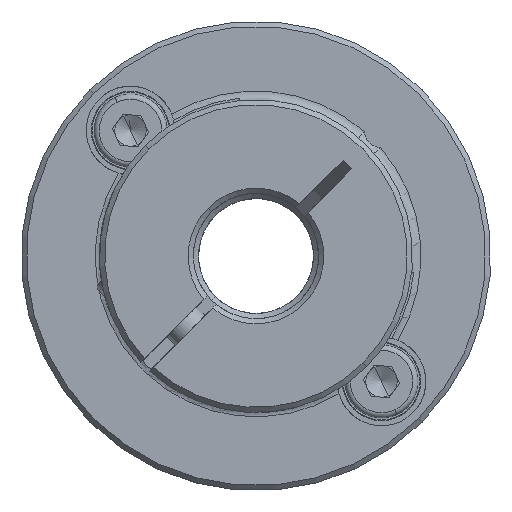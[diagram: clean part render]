
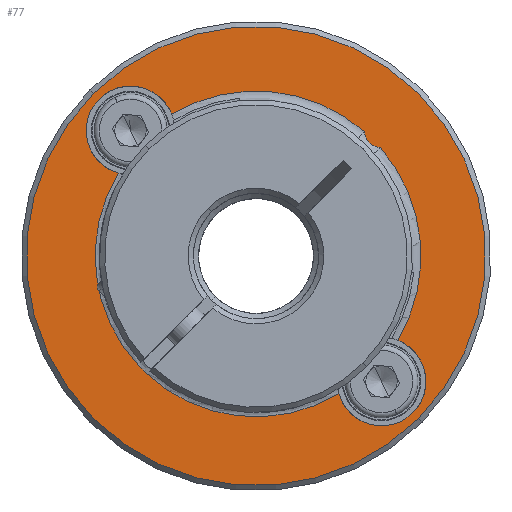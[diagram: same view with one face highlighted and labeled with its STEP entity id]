
A CAD part, front view. The second image highlights one B-rep face of the part: STEP entity #77.
In plain terms, the highlighted planar face has unit normal (0, -1, 0).
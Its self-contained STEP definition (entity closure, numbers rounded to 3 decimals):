
#61 = AXIS2_PLACEMENT_3D ( 'NONE', #785, #5657, #1815 ) ;
#77 = ADVANCED_FACE ( 'NONE', ( #8325, #12239 ), #4648, .T. ) ;
#207 = CARTESIAN_POINT ( 'NONE',  ( -13.688, 21.413, 33.299 ) ) ;
#228 = CIRCLE ( 'NONE', #5845, 15.8 ) ;
#238 = CIRCLE ( 'NONE', #8311, 15.4 ) ;
#247 = ORIENTED_EDGE ( 'NONE', *, *, #9484, .T. ) ;
#292 = DIRECTION ( 'NONE',  ( -0.707, 0., 0.707 ) ) ;
#344 = EDGE_CURVE ( 'NONE', #3932, #2525, #679, .T. ) ;
#377 = CARTESIAN_POINT ( 'NONE',  ( 11.054, 21.413, 35.845 ) ) ;
#398 = DIRECTION ( 'NONE',  ( 0., 1., 0. ) ) ;
#462 = CARTESIAN_POINT ( 'NONE',  ( -10.6, 21.413, 57.498 ) ) ;
#679 = CIRCLE ( 'NONE', #2009, 15.8 ) ;
#705 = DIRECTION ( 'NONE',  ( 0., 1., 0. ) ) ;
#785 = CARTESIAN_POINT ( 'NONE',  ( 9.49, 21.413, 31.893 ) ) ;
#862 = DIRECTION ( 'NONE',  ( -0.707, 0., 0.707 ) ) ;
#1155 = CARTESIAN_POINT ( 'NONE',  ( 9.49, 21.413, 31.893 ) ) ;
#1196 = EDGE_CURVE ( 'NONE', #10965, #3932, #10410, .T. ) ;
#1304 = CARTESIAN_POINT ( 'NONE',  ( -14.552, 21.413, 55.935 ) ) ;
#1343 = CARTESIAN_POINT ( 'NONE',  ( 13.026, 21.413, 28.358 ) ) ;
#1592 = ORIENTED_EDGE ( 'NONE', *, *, #344, .T. ) ;
#1609 = EDGE_CURVE ( 'NONE', #8937, #12385, #9383, .T. ) ;
#1705 = CARTESIAN_POINT ( 'NONE',  ( -13.145, 21.413, 32.757 ) ) ;
#1751 = EDGE_CURVE ( 'NONE', #4991, #10965, #3479, .T. ) ;
#1815 = DIRECTION ( 'NONE',  ( -0.707, 0., 0.707 ) ) ;
#2009 = AXIS2_PLACEMENT_3D ( 'NONE', #7210, #12158, #6405 ) ;
#2152 = EDGE_CURVE ( 'NONE', #2525, #3056, #8901, .T. ) ;
#2525 = VERTEX_POINT ( 'NONE', #11080 ) ;
#2545 = VERTEX_POINT ( 'NONE', #1343 ) ;
#2729 = EDGE_CURVE ( 'NONE', #6942, #7674, #3809, .T. ) ;
#2889 = EDGE_CURVE ( 'NONE', #3056, #9613, #228, .T. ) ;
#3056 = VERTEX_POINT ( 'NONE', #10138 ) ;
#3479 = CIRCLE ( 'NONE', #5517, 4.25 ) ;
#3555 = DIRECTION ( 'NONE',  ( 0., -1., 0. ) ) ;
#3562 = AXIS2_PLACEMENT_3D ( 'NONE', #1155, #7820, #292 ) ;
#3567 = CARTESIAN_POINT ( 'NONE',  ( -13.145, 21.413, 32.757 ) ) ;
#3746 = EDGE_LOOP ( 'NONE', ( #7652, #4002, #247, #10813, #4462, #12042, #9171, #7757, #10969, #1592 ) ) ;
#3809 = CIRCLE ( 'NONE', #61, 4.25 ) ;
#3864 = EDGE_CURVE ( 'NONE', #11065, #2545, #10705, .T. ) ;
#3932 = VERTEX_POINT ( 'NONE', #462 ) ;
#4002 = ORIENTED_EDGE ( 'NONE', *, *, #2889, .T. ) ;
#4054 = ORIENTED_EDGE ( 'NONE', *, *, #8420, .T. ) ;
#4162 = DIRECTION ( 'NONE',  ( 0., -1., 0. ) ) ;
#4226 = DIRECTION ( 'NONE',  ( -0.707, 0., 0.707 ) ) ;
#4302 = AXIS2_PLACEMENT_3D ( 'NONE', #8075, #4162, #10894 ) ;
#4462 = ORIENTED_EDGE ( 'NONE', *, *, #9267, .T. ) ;
#4616 = CARTESIAN_POINT ( 'NONE',  ( -13.688, 21.413, 33.299 ) ) ;
#4648 = PLANE ( 'NONE',  #9431 ) ;
#4680 = DIRECTION ( 'NONE',  ( 1., 0., 0. ) ) ;
#4810 = CIRCLE ( 'NONE', #9413, 15.4 ) ;
#4991 = VERTEX_POINT ( 'NONE', #11770 ) ;
#5101 = CARTESIAN_POINT ( 'NONE',  ( -2.531, 21.413, 43.914 ) ) ;
#5102 = EDGE_CURVE ( 'NONE', #12385, #4991, #4810, .T. ) ;
#5193 = CIRCLE ( 'NONE', #6867, 22. ) ;
#5299 = DIRECTION ( 'NONE',  ( -0.707, 0., 0.707 ) ) ;
#5517 = AXIS2_PLACEMENT_3D ( 'NONE', #10471, #5689, #9587 ) ;
#5550 = CARTESIAN_POINT ( 'NONE',  ( 9.49, 21.413, 55.935 ) ) ;
#5657 = DIRECTION ( 'NONE',  ( 0., 1., 0. ) ) ;
#5689 = DIRECTION ( 'NONE',  ( 0., 1., 0. ) ) ;
#5723 = CARTESIAN_POINT ( 'NONE',  ( 9.49, 21.413, 55.935 ) ) ;
#5744 = ORIENTED_EDGE ( 'NONE', *, *, #3864, .T. ) ;
#5845 = AXIS2_PLACEMENT_3D ( 'NONE', #11750, #9840, #7118 ) ;
#6071 = DIRECTION ( 'NONE',  ( 0., -1., 0. ) ) ;
#6405 = DIRECTION ( 'NONE',  ( -0.707, 0., 0.707 ) ) ;
#6624 = AXIS2_PLACEMENT_3D ( 'NONE', #1304, #398, #4226 ) ;
#6867 = AXIS2_PLACEMENT_3D ( 'NONE', #5101, #6071, #9881 ) ;
#6942 = VERTEX_POINT ( 'NONE', #8939 ) ;
#7118 = DIRECTION ( 'NONE',  ( -0.707, 0., 0.707 ) ) ;
#7127 = CARTESIAN_POINT ( 'NONE',  ( -17.557, 21.413, 58.94 ) ) ;
#7210 = CARTESIAN_POINT ( 'NONE',  ( -2.531, 21.413, 43.914 ) ) ;
#7336 = CIRCLE ( 'NONE', #3562, 4.25 ) ;
#7652 = ORIENTED_EDGE ( 'NONE', *, *, #2152, .T. ) ;
#7665 = DIRECTION ( 'NONE',  ( 0., -1., 0. ) ) ;
#7674 = VERTEX_POINT ( 'NONE', #10744 ) ;
#7757 = ORIENTED_EDGE ( 'NONE', *, *, #1751, .T. ) ;
#7820 = DIRECTION ( 'NONE',  ( 0., 1., 0. ) ) ;
#8075 = CARTESIAN_POINT ( 'NONE',  ( -2.531, 21.413, 43.914 ) ) ;
#8311 = AXIS2_PLACEMENT_3D ( 'NONE', #12358, #705, #862 ) ;
#8325 = FACE_BOUND ( 'NONE', #3746, .T. ) ;
#8360 = CARTESIAN_POINT ( 'NONE',  ( -13.283, 21.413, 32.981 ) ) ;
#8420 = EDGE_CURVE ( 'NONE', #2545, #11065, #5193, .T. ) ;
#8465 = AXIS2_PLACEMENT_3D ( 'NONE', #5550, #3555, #4680 ) ;
#8636 = DIRECTION ( 'NONE',  ( 0.145, 0., -0.989 ) ) ;
#8901 = CIRCLE ( 'NONE', #8465, 1.65 ) ;
#8937 = VERTEX_POINT ( 'NONE', #1705 ) ;
#8939 = CARTESIAN_POINT ( 'NONE',  ( 12.495, 21.413, 28.888 ) ) ;
#9171 = ORIENTED_EDGE ( 'NONE', *, *, #5102, .T. ) ;
#9267 = EDGE_CURVE ( 'NONE', #7674, #8937, #238, .T. ) ;
#9383 = B_SPLINE_CURVE_WITH_KNOTS ( 'NONE', 3,
 ( #3567, #8360, #10425, #4616 ),
 .UNSPECIFIED., .F., .F.,
 ( 4, 4 ),
 ( 0., 1. ),
 .UNSPECIFIED. ) ;
#9413 = AXIS2_PLACEMENT_3D ( 'NONE', #11046, #11892, #5299 ) ;
#9431 = AXIS2_PLACEMENT_3D ( 'NONE', #5723, #7665, #8636 ) ;
#9484 = EDGE_CURVE ( 'NONE', #9613, #6942, #7336, .T. ) ;
#9587 = DIRECTION ( 'NONE',  ( -0.707, 0., 0.707 ) ) ;
#9613 = VERTEX_POINT ( 'NONE', #377 ) ;
#9724 = EDGE_LOOP ( 'NONE', ( #4054, #5744 ) ) ;
#9840 = DIRECTION ( 'NONE',  ( 0., 1., 0. ) ) ;
#9881 = DIRECTION ( 'NONE',  ( -0.707, 0., 0.707 ) ) ;
#10138 = CARTESIAN_POINT ( 'NONE',  ( 9.386, 21.413, 54.288 ) ) ;
#10410 = CIRCLE ( 'NONE', #6624, 4.25 ) ;
#10425 = CARTESIAN_POINT ( 'NONE',  ( -13.464, 21.413, 33.162 ) ) ;
#10471 = CARTESIAN_POINT ( 'NONE',  ( -14.552, 21.413, 55.935 ) ) ;
#10705 = CIRCLE ( 'NONE', #4302, 22. ) ;
#10744 = CARTESIAN_POINT ( 'NONE',  ( 5.406, 21.413, 30.717 ) ) ;
#10813 = ORIENTED_EDGE ( 'NONE', *, *, #2729, .T. ) ;
#10894 = DIRECTION ( 'NONE',  ( -0.707, 0., 0.707 ) ) ;
#10965 = VERTEX_POINT ( 'NONE', #7127 ) ;
#10969 = ORIENTED_EDGE ( 'NONE', *, *, #1196, .T. ) ;
#11046 = CARTESIAN_POINT ( 'NONE',  ( -2.531, 21.413, 43.914 ) ) ;
#11065 = VERTEX_POINT ( 'NONE', #11074 ) ;
#11074 = CARTESIAN_POINT ( 'NONE',  ( -18.087, 21.413, 59.47 ) ) ;
#11080 = CARTESIAN_POINT ( 'NONE',  ( 7.843, 21.413, 55.831 ) ) ;
#11750 = CARTESIAN_POINT ( 'NONE',  ( -2.531, 21.413, 43.914 ) ) ;
#11770 = CARTESIAN_POINT ( 'NONE',  ( -15.728, 21.413, 51.851 ) ) ;
#11892 = DIRECTION ( 'NONE',  ( 0., 1., 0. ) ) ;
#12042 = ORIENTED_EDGE ( 'NONE', *, *, #1609, .T. ) ;
#12158 = DIRECTION ( 'NONE',  ( 0., 1., 0. ) ) ;
#12239 = FACE_OUTER_BOUND ( 'NONE', #9724, .T. ) ;
#12358 = CARTESIAN_POINT ( 'NONE',  ( -2.531, 21.413, 43.914 ) ) ;
#12385 = VERTEX_POINT ( 'NONE', #207 ) ;
